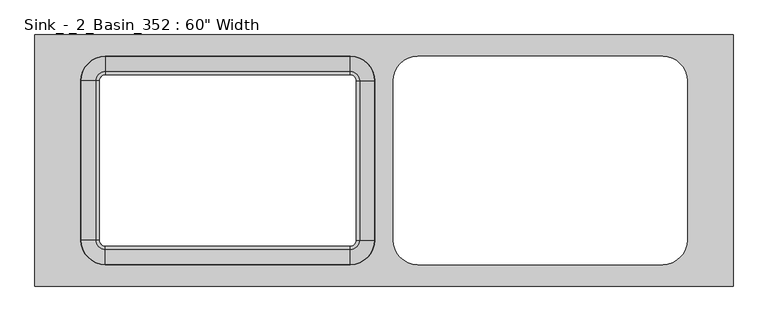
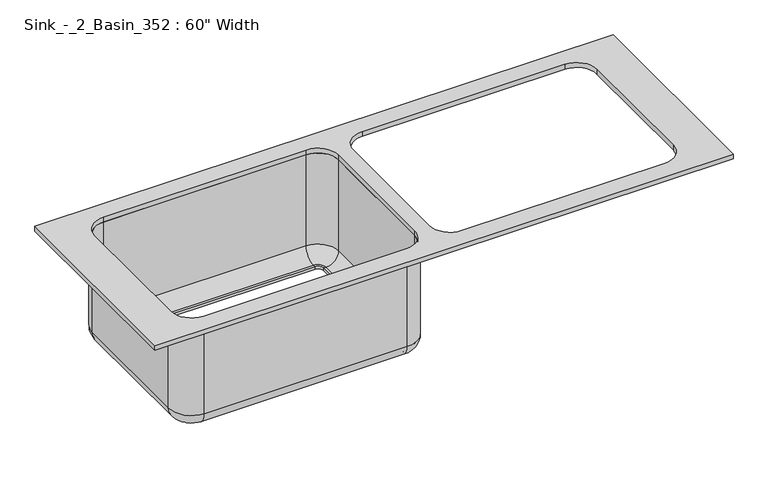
"""IFC4 building model written with IfcOpenShell, lengths in millimetres: flow terminal geometry."""

from ifc_helpers import new_model, si_unit, point, frame, frame_2d, origin, place, context, project, spatial, polyline, circle_curve, ellipse_curve, trimmed, segment, composite_curve, outline, extrude, source, transform, mapped, element, save
from ifc_brep_helpers import plane_surface, cylinder_surface, revolved_surface, advanced_brep


def flow_terminal_316eafe6(model_context):
    return source(origin(), model_context, "Body", "SolidModel", [
        advanced_brep(
        [(2.9892406, 91.2454011, 622.3), (-54.1607594, 148.3954011, 622.3), (-54.1607594, 148.3954011, 863.6), (2.9892406, 91.2454011, 863.6), (-35.1107594, 91.2454011, 584.2), (-54.1607594, 110.2954011, 584.2), (-41.4607594, 91.2454011, 584.2), (-54.1607594, 103.9454011, 584.2), (-41.4607594, 91.2454011, 590.55), (-54.1607594, 103.9454011, 590.55), (-35.1107594, 91.2454011, 590.55), (-54.1607594, 110.2954011, 590.55), (-3.3607594, 91.2454011, 622.3), (-54.1607594, 142.0454011, 622.3), (-3.3607594, 91.2454011, 863.6), (-54.1607594, 142.0454011, 863.6), (2.9892406, -238.9545989, 863.6), (2.9892406, -238.9545989, 622.3), (-35.1107594, -238.9545989, 584.2), (-41.4607594, -238.9545989, 584.2), (-41.4607594, -238.9545989, 590.55), (-35.1107594, -238.9545989, 590.55), (-3.3607594, -238.9545989, 622.3), (-3.3607594, -238.9545989, 863.6), (-54.1607594, -296.1045989, 622.3), (-54.1607594, -296.1045989, 863.6), (-54.1607594, -258.0045989, 584.2), (-54.1607594, -251.6545989, 584.2), (-54.1607594, -251.6545989, 590.55), (-54.1607594, -258.0045989, 590.55), (-54.1607594, -289.7545989, 622.3), (-54.1607594, -289.7545989, 863.6), (-562.1607594, -296.1045989, 863.6), (-562.1607594, -296.1045989, 622.3), (-562.1607594, -258.0045989, 584.2), (-562.1607594, -251.6545989, 584.2), (-562.1607594, -251.6545989, 590.55), (-562.1607594, -258.0045989, 590.55), (-562.1607594, -289.7545989, 622.3), (-562.1607594, -289.7545989, 863.6), (-619.3107594, -238.9545989, 622.3), (-619.3107594, -238.9545989, 863.6), (-581.2107594, -238.9545989, 584.2), (-574.8607594, -238.9545989, 584.2), (-574.8607594, -238.9545989, 590.55), (-581.2107594, -238.9545989, 590.55), (-612.9607594, -238.9545989, 622.3), (-612.9607594, -238.9545989, 863.6), (-619.3107594, 91.2454011, 863.6), (-619.3107594, 91.2454011, 622.3), (-581.2107594, 91.2454011, 584.2), (-574.8607594, 91.2454011, 584.2), (-574.8607594, 91.2454011, 590.55), (-581.2107594, 91.2454011, 590.55), (-612.9607594, 91.2454011, 622.3), (-612.9607594, 91.2454011, 863.6), (-562.1607594, 148.3954011, 622.3), (-562.1607594, 148.3954011, 863.6), (-562.1607594, 110.2954011, 584.2), (-562.1607594, 103.9454011, 584.2), (-562.1607594, 103.9454011, 590.55), (-562.1607594, 110.2954011, 590.55), (-562.1607594, 142.0454011, 622.3), (-562.1607594, 142.0454011, 863.6)],
        [
            (0, 1, circle_curve(frame((-54.1607594, 91.2454011, 622.3), z_axis=(0.0, 0.0, 1.0), x_axis=(0.0, 1.0, 0.0)), 57.15)),
            (1, 2),
            (2, 3, circle_curve(frame((-54.1607594, 91.2454011, 863.6), z_axis=(0.0, 0.0, -1.0), x_axis=(0.0, 1.0, 0.0)), 57.15)),
            (3, 0),
            (4, 5, circle_curve(frame((-54.1607594, 91.2454011, 584.2), z_axis=(0.0, 0.0, 1.0), x_axis=(0.0, 1.0, 0.0)), 19.05)),
            (5, 1, circle_curve(frame((-54.1607594, 110.2954011, 622.3), z_axis=(1.0, 0.0, 0.0), x_axis=(0.0, 1.0, 0.0)), 38.1)),
            (0, 4, circle_curve(frame((-35.1107594, 91.2454011, 622.3), z_axis=(0.0, 1.0, 0.0), x_axis=(1.0, 0.0, 0.0)), 38.1)),
            (6, 7, circle_curve(frame((-54.1607594, 91.2454011, 584.2), z_axis=(0.0, 0.0, 1.0), x_axis=(0.0, 1.0, 0.0)), 12.7)),
            (7, 5),
            (4, 6),
            (8, 9, circle_curve(frame((-54.1607594, 91.2454011, 590.55), z_axis=(0.0, 0.0, 1.0), x_axis=(0.0, 1.0, 0.0)), 12.7)),
            (9, 7),
            (6, 8),
            (10, 11, circle_curve(frame((-54.1607594, 91.2454011, 590.55), z_axis=(0.0, 0.0, 1.0), x_axis=(0.0, 1.0, 0.0)), 19.05)),
            (11, 9),
            (8, 10),
            (12, 13, circle_curve(frame((-54.1607594, 91.2454011, 622.3), z_axis=(0.0, 0.0, 1.0), x_axis=(0.0, 1.0, 0.0)), 50.8)),
            (13, 11, circle_curve(frame((-54.1607594, 110.2954011, 622.3), z_axis=(-1.0, 0.0, 0.0), x_axis=(0.0, 1.0, 0.0)), 31.75)),
            (10, 12, circle_curve(frame((-35.1107594, 91.2454011, 622.3), z_axis=(0.0, -1.0, 0.0), x_axis=(1.0, 0.0, 0.0)), 31.75)),
            (14, 15, circle_curve(frame((-54.1607594, 91.2454011, 863.6), z_axis=(0.0, 0.0, 1.0), x_axis=(0.0, 1.0, 0.0)), 50.8)),
            (15, 13),
            (12, 14),
            (2, 15),
            (14, 3),
            (3, 16),
            (16, 17),
            (17, 0),
            (17, 18, circle_curve(frame((-35.1107594, -238.9545989, 622.3), z_axis=(0.0, 1.0, 0.0), x_axis=(1.0, 0.0, 0.0)), 38.1)),
            (18, 4),
            (18, 19),
            (19, 6),
            (19, 20),
            (20, 8),
            (20, 21),
            (21, 10),
            (21, 22, circle_curve(frame((-35.1107594, -238.9545989, 622.3), z_axis=(0.0, -1.0, 0.0), x_axis=(1.0, 0.0, 0.0)), 31.75)),
            (22, 12),
            (22, 23),
            (23, 14),
            (23, 16),
            (24, 17, circle_curve(frame((-54.1607594, -238.9545989, 622.3), z_axis=(0.0, 0.0, 1.0), x_axis=(1.0, 0.0, 0.0)), 57.15)),
            (16, 25, circle_curve(frame((-54.1607594, -238.9545989, 863.6), z_axis=(0.0, 0.0, -1.0), x_axis=(1.0, 0.0, 0.0)), 57.15)),
            (25, 24),
            (26, 18, circle_curve(frame((-54.1607594, -238.9545989, 584.2), z_axis=(0.0, 0.0, 1.0), x_axis=(1.0, 0.0, 0.0)), 19.05)),
            (24, 26, circle_curve(frame((-54.1607594, -258.0045989, 622.3), z_axis=(1.0, 0.0, 0.0), x_axis=(0.0, -1.0, 0.0)), 38.1)),
            (27, 19, circle_curve(frame((-54.1607594, -238.9545989, 584.2), z_axis=(0.0, 0.0, 1.0), x_axis=(1.0, 0.0, 0.0)), 12.7)),
            (26, 27),
            (28, 20, circle_curve(frame((-54.1607594, -238.9545989, 590.55), z_axis=(0.0, 0.0, 1.0), x_axis=(1.0, 0.0, 0.0)), 12.7)),
            (27, 28),
            (29, 21, circle_curve(frame((-54.1607594, -238.9545989, 590.55), z_axis=(0.0, 0.0, 1.0), x_axis=(1.0, 0.0, 0.0)), 19.05)),
            (28, 29),
            (30, 22, circle_curve(frame((-54.1607594, -238.9545989, 622.3), z_axis=(0.0, 0.0, 1.0), x_axis=(1.0, 0.0, 0.0)), 50.8)),
            (29, 30, circle_curve(frame((-54.1607594, -258.0045989, 622.3), z_axis=(-1.0, 0.0, 0.0), x_axis=(0.0, -1.0, 0.0)), 31.75)),
            (31, 23, circle_curve(frame((-54.1607594, -238.9545989, 863.6), z_axis=(0.0, 0.0, 1.0), x_axis=(1.0, 0.0, 0.0)), 50.8)),
            (30, 31),
            (31, 25),
            (25, 32),
            (32, 33),
            (33, 24),
            (33, 34, circle_curve(frame((-562.1607594, -258.0045989, 622.3), z_axis=(1.0, 0.0, 0.0), x_axis=(0.0, -1.0, 0.0)), 38.1)),
            (34, 26),
            (34, 35),
            (35, 27),
            (35, 36),
            (36, 28),
            (36, 37),
            (37, 29),
            (37, 38, circle_curve(frame((-562.1607594, -258.0045989, 622.3), z_axis=(-1.0, 0.0, 0.0), x_axis=(0.0, -1.0, 0.0)), 31.75)),
            (38, 30),
            (38, 39),
            (39, 31),
            (39, 32),
            (40, 33, circle_curve(frame((-562.1607594, -238.9545989, 622.3), z_axis=(0.0, 0.0, 1.0), x_axis=(0.0, -1.0, 0.0)), 57.15)),
            (32, 41, circle_curve(frame((-562.1607594, -238.9545989, 863.6), z_axis=(0.0, 0.0, -1.0), x_axis=(0.0, -1.0, 0.0)), 57.15)),
            (41, 40),
            (42, 34, circle_curve(frame((-562.1607594, -238.9545989, 584.2), z_axis=(0.0, 0.0, 1.0), x_axis=(0.0, -1.0, 0.0)), 19.05)),
            (40, 42, circle_curve(frame((-581.2107594, -238.9545989, 622.3), z_axis=(0.0, -1.0, 0.0), x_axis=(-1.0, 0.0, 0.0)), 38.1)),
            (43, 35, circle_curve(frame((-562.1607594, -238.9545989, 584.2), z_axis=(0.0, 0.0, 1.0), x_axis=(0.0, -1.0, 0.0)), 12.7)),
            (42, 43),
            (44, 36, circle_curve(frame((-562.1607594, -238.9545989, 590.55), z_axis=(0.0, 0.0, 1.0), x_axis=(0.0, -1.0, 0.0)), 12.7)),
            (43, 44),
            (45, 37, circle_curve(frame((-562.1607594, -238.9545989, 590.55), z_axis=(0.0, 0.0, 1.0), x_axis=(0.0, -1.0, 0.0)), 19.05)),
            (44, 45),
            (46, 38, circle_curve(frame((-562.1607594, -238.9545989, 622.3), z_axis=(0.0, 0.0, 1.0), x_axis=(0.0, -1.0, 0.0)), 50.8)),
            (45, 46, circle_curve(frame((-581.2107594, -238.9545989, 622.3), z_axis=(0.0, 1.0, 0.0), x_axis=(-1.0, 0.0, 0.0)), 31.75)),
            (47, 39, circle_curve(frame((-562.1607594, -238.9545989, 863.6), z_axis=(0.0, 0.0, 1.0), x_axis=(0.0, -1.0, 0.0)), 50.8)),
            (46, 47),
            (47, 41),
            (41, 48),
            (48, 49),
            (49, 40),
            (49, 50, circle_curve(frame((-581.2107594, 91.2454011, 622.3), z_axis=(0.0, -1.0, 0.0), x_axis=(-1.0, 0.0, 0.0)), 38.1)),
            (50, 42),
            (50, 51),
            (51, 43),
            (51, 52),
            (52, 44),
            (52, 53),
            (53, 45),
            (53, 54, circle_curve(frame((-581.2107594, 91.2454011, 622.3), z_axis=(0.0, 1.0, 0.0), x_axis=(-1.0, 0.0, 0.0)), 31.75)),
            (54, 46),
            (54, 55),
            (55, 47),
            (55, 48),
            (56, 49, circle_curve(frame((-562.1607594, 91.2454011, 622.3), z_axis=(0.0, 0.0, 1.0), x_axis=(-1.0, 0.0, 0.0)), 57.15)),
            (48, 57, circle_curve(frame((-562.1607594, 91.2454011, 863.6), z_axis=(0.0, 0.0, -1.0), x_axis=(-1.0, 0.0, 0.0)), 57.15)),
            (57, 56),
            (58, 50, circle_curve(frame((-562.1607594, 91.2454011, 584.2), z_axis=(0.0, 0.0, 1.0), x_axis=(-1.0, 0.0, 0.0)), 19.05)),
            (56, 58, circle_curve(frame((-562.1607594, 110.2954011, 622.3), z_axis=(-1.0, 0.0, 0.0), x_axis=(0.0, 1.0, 0.0)), 38.1)),
            (59, 51, circle_curve(frame((-562.1607594, 91.2454011, 584.2), z_axis=(0.0, 0.0, 1.0), x_axis=(-1.0, 0.0, 0.0)), 12.7)),
            (58, 59),
            (60, 52, circle_curve(frame((-562.1607594, 91.2454011, 590.55), z_axis=(0.0, 0.0, 1.0), x_axis=(-1.0, 0.0, 0.0)), 12.7)),
            (59, 60),
            (61, 53, circle_curve(frame((-562.1607594, 91.2454011, 590.55), z_axis=(0.0, 0.0, 1.0), x_axis=(-1.0, 0.0, 0.0)), 19.05)),
            (60, 61),
            (62, 54, circle_curve(frame((-562.1607594, 91.2454011, 622.3), z_axis=(0.0, 0.0, 1.0), x_axis=(-1.0, 0.0, 0.0)), 50.8)),
            (61, 62, circle_curve(frame((-562.1607594, 110.2954011, 622.3), z_axis=(1.0, 0.0, 0.0), x_axis=(0.0, 1.0, 0.0)), 31.75)),
            (63, 55, circle_curve(frame((-562.1607594, 91.2454011, 863.6), z_axis=(0.0, 0.0, 1.0), x_axis=(-1.0, 0.0, 0.0)), 50.8)),
            (62, 63),
            (63, 57),
            (57, 2),
            (1, 56),
            (5, 58),
            (7, 59),
            (9, 60),
            (11, 61),
            (13, 62),
            (15, 63),
        ],
        [
            cylinder_surface(frame((-54.1607594, 91.2454011, 0.0), z_axis=(0.0, 0.0, -1.0), x_axis=(0.0, 1.0, 0.0)), 57.15),
            revolved_surface(trimmed(ellipse_curve(frame((-54.1607594, 110.2954011, 622.3), z_axis=(-1.0, 0.0, 0.0), x_axis=(0.0, 1.0, 0.0)), 38.1, 38.1), [point((-54.1607594, 148.3954011, 622.3))], [point((-54.1607594, 110.2954011, 584.2))], True, "CARTESIAN"), (-54.1607594, 91.2454011, 0.0), (0.0, 0.0, -1.0)),
            plane_surface(frame((-54.1607594, 91.2454011, 584.2), z_axis=(0.0, 0.0, -1.0), x_axis=(0.0, 1.0, 0.0))),
            revolved_surface(polyline([(-54.1607594, 103.9454011, 584.2), (-54.1607594, 103.9454011, 590.55)]), (-54.1607594, 91.2454011, 0.0), (0.0, 0.0, -1.0)),
            plane_surface(frame((-54.1607594, 91.2454011, 590.55), z_axis=(0.0, 0.0, 1.0), x_axis=(0.0, 1.0, 0.0))),
            revolved_surface(trimmed(ellipse_curve(frame((-54.1607594, 110.2954011, 622.3), z_axis=(1.0, 0.0, 0.0), x_axis=(0.0, 1.0, 0.0)), 31.75, 31.75), [point((-54.1607594, 110.2954011, 590.55))], [point((-54.1607594, 142.0454011, 622.3))], True, "CARTESIAN"), (-54.1607594, 91.2454011, 0.0), (0.0, 0.0, -1.0)),
            revolved_surface(polyline([(-54.1607594, 142.0454011, 622.3), (-54.1607594, 142.0454011, 863.6)]), (-54.1607594, 91.2454011, 0.0), (0.0, 0.0, -1.0)),
            plane_surface(frame((-54.1607594, 91.2454011, 863.6), z_axis=(0.0, 0.0, 1.0), x_axis=(0.0, 1.0, 0.0))),
            plane_surface(frame((2.9892406, 91.2454011, 863.6), z_axis=(1.0, 0.0, 0.0), x_axis=(0.0, -1.0, 0.0))),
            cylinder_surface(frame((-35.1107594, 91.2454011, 622.3), z_axis=(0.0, 1.0, 0.0), x_axis=(1.0, 0.0, 0.0)), 38.1),
            plane_surface(frame((-35.1107594, 91.2454011, 584.2), z_axis=(0.0, 0.0, -1.0), x_axis=(0.0, -1.0, 0.0))),
            plane_surface(frame((-41.4607594, 91.2454011, 584.2), z_axis=(-1.0, 0.0, 0.0), x_axis=(0.0, -1.0, 0.0))),
            plane_surface(frame((-41.4607594, 91.2454011, 590.55), z_axis=(0.0, 0.0, 1.0), x_axis=(0.0, -1.0, 0.0))),
            revolved_surface(polyline([(-3.360759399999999, -238.9545989, 622.3), (-3.360759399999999, 91.2454011, 622.3)]), (-35.1107594, 91.2454011, 622.3), (0.0, -1.0, 0.0)),
            plane_surface(frame((-3.3607594, 91.2454011, 622.3), z_axis=(-1.0, 0.0, 0.0), x_axis=(0.0, -1.0, 0.0))),
            plane_surface(frame((-3.3607594, 91.2454011, 863.6), z_axis=(0.0, 0.0, 1.0), x_axis=(0.0, -1.0, 0.0))),
            cylinder_surface(frame((-54.1607594, -238.9545989, 0.0), z_axis=(0.0, 0.0, -1.0), x_axis=(1.0, 0.0, 0.0)), 57.15),
            revolved_surface(trimmed(ellipse_curve(frame((-35.1107594, -238.9545989, 622.3), z_axis=(0.0, 1.0, 0.0), x_axis=(1.0, 0.0, 0.0)), 38.1, 38.1), [point((2.9892406, -238.9545989, 622.3))], [point((-35.1107594, -238.9545989, 584.2))], True, "CARTESIAN"), (-54.1607594, -238.9545989, 0.0), (0.0, 0.0, -1.0)),
            plane_surface(frame((-54.1607594, -238.9545989, 584.2), z_axis=(0.0, 0.0, -1.0), x_axis=(1.0, 0.0, 0.0))),
            revolved_surface(polyline([(-41.4607594, -238.9545989, 584.2), (-41.4607594, -238.9545989, 590.55)]), (-54.1607594, -238.9545989, 0.0), (0.0, 0.0, -1.0)),
            plane_surface(frame((-54.1607594, -238.9545989, 590.55), z_axis=(0.0, 0.0, 1.0), x_axis=(1.0, 0.0, 0.0))),
            revolved_surface(trimmed(ellipse_curve(frame((-35.1107594, -238.9545989, 622.3), z_axis=(0.0, -1.0, 0.0), x_axis=(1.0, 0.0, 0.0)), 31.75, 31.75), [point((-35.1107594, -238.9545989, 590.55))], [point((-3.3607594, -238.9545989, 622.3))], True, "CARTESIAN"), (-54.1607594, -238.9545989, 0.0), (0.0, 0.0, -1.0)),
            revolved_surface(polyline([(-3.3607594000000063, -238.9545989, 622.3), (-3.3607594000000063, -238.9545989, 863.6)]), (-54.1607594, -238.9545989, 0.0), (0.0, 0.0, -1.0)),
            plane_surface(frame((-54.1607594, -238.9545989, 863.6), z_axis=(0.0, 0.0, 1.0), x_axis=(1.0, 0.0, 0.0))),
            plane_surface(frame((-54.1607594, -296.1045989, 863.6), z_axis=(0.0, -1.0, 0.0), x_axis=(-1.0, 0.0, 0.0))),
            cylinder_surface(frame((-54.1607594, -258.0045989, 622.3), z_axis=(1.0, 0.0, 0.0), x_axis=(0.0, -1.0, 0.0)), 38.1),
            plane_surface(frame((-54.1607594, -258.0045989, 584.2), z_axis=(0.0, 0.0, -1.0), x_axis=(-1.0, 0.0, 0.0))),
            plane_surface(frame((-54.1607594, -251.6545989, 584.2), z_axis=(0.0, 1.0, 0.0), x_axis=(-1.0, 0.0, 0.0))),
            plane_surface(frame((-54.1607594, -251.6545989, 590.55), z_axis=(0.0, 0.0, 1.0), x_axis=(-1.0, 0.0, 0.0))),
            revolved_surface(polyline([(-562.1607594, -289.7545989, 622.3), (-54.1607594, -289.7545989, 622.3)]), (-54.1607594, -258.0045989, 622.3), (-1.0, 0.0, 0.0)),
            plane_surface(frame((-54.1607594, -289.7545989, 622.3), z_axis=(0.0, 1.0, 0.0), x_axis=(-1.0, 0.0, 0.0))),
            plane_surface(frame((-54.1607594, -289.7545989, 863.6), z_axis=(0.0, 0.0, 1.0), x_axis=(-1.0, 0.0, 0.0))),
            cylinder_surface(frame((-562.1607594, -238.9545989, 0.0), z_axis=(0.0, 0.0, -1.0), x_axis=(0.0, -1.0, 0.0)), 57.15),
            revolved_surface(trimmed(ellipse_curve(frame((-562.1607594, -258.0045989, 622.3), z_axis=(1.0, 0.0, 0.0), x_axis=(0.0, -1.0, 0.0)), 38.1, 38.1), [point((-562.1607594, -296.1045989, 622.3))], [point((-562.1607594, -258.0045989, 584.2))], True, "CARTESIAN"), (-562.1607594, -238.9545989, 0.0), (0.0, 0.0, -1.0)),
            plane_surface(frame((-562.1607594, -238.9545989, 584.2), z_axis=(0.0, 0.0, -1.0), x_axis=(0.0, -1.0, 0.0))),
            revolved_surface(polyline([(-562.1607594, -251.6545989, 584.2), (-562.1607594, -251.6545989, 590.55)]), (-562.1607594, -238.9545989, 0.0), (0.0, 0.0, -1.0)),
            plane_surface(frame((-562.1607594, -238.9545989, 590.55), z_axis=(0.0, 0.0, 1.0), x_axis=(0.0, -1.0, 0.0))),
            revolved_surface(trimmed(ellipse_curve(frame((-562.1607594, -258.0045989, 622.3), z_axis=(-1.0, 0.0, 0.0), x_axis=(0.0, -1.0, 0.0)), 31.75, 31.75), [point((-562.1607594, -258.0045989, 590.55))], [point((-562.1607594, -289.7545989, 622.3))], True, "CARTESIAN"), (-562.1607594, -238.9545989, 0.0), (0.0, 0.0, -1.0)),
            revolved_surface(polyline([(-562.1607594, -289.7545989, 622.3), (-562.1607594, -289.7545989, 863.6)]), (-562.1607594, -238.9545989, 0.0), (0.0, 0.0, -1.0)),
            plane_surface(frame((-562.1607594, -238.9545989, 863.6), z_axis=(0.0, 0.0, 1.0), x_axis=(0.0, -1.0, 0.0))),
            plane_surface(frame((-619.3107594, -238.9545989, 863.6), z_axis=(-1.0, 0.0, 0.0), x_axis=(0.0, 1.0, 0.0))),
            cylinder_surface(frame((-581.2107594, -238.9545989, 622.3), z_axis=(0.0, -1.0, 0.0), x_axis=(-1.0, 0.0, 0.0)), 38.1),
            plane_surface(frame((-581.2107594, -238.9545989, 584.2), z_axis=(0.0, 0.0, -1.0), x_axis=(0.0, 1.0, 0.0))),
            plane_surface(frame((-574.8607594, -238.9545989, 584.2), z_axis=(1.0, 0.0, 0.0), x_axis=(0.0, 1.0, 0.0))),
            plane_surface(frame((-574.8607594, -238.9545989, 590.55), z_axis=(0.0, 0.0, 1.0), x_axis=(0.0, 1.0, 0.0))),
            revolved_surface(polyline([(-612.9607594, 91.24540109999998, 622.3), (-612.9607594, -238.9545989, 622.3)]), (-581.2107594, -238.9545989, 622.3), (0.0, 1.0, 0.0)),
            plane_surface(frame((-612.9607594, -238.9545989, 622.3), z_axis=(1.0, 0.0, 0.0), x_axis=(0.0, 1.0, 0.0))),
            plane_surface(frame((-612.9607594, -238.9545989, 863.6), z_axis=(0.0, 0.0, 1.0), x_axis=(0.0, 1.0, 0.0))),
            cylinder_surface(frame((-562.1607594, 91.2454011, 0.0), z_axis=(0.0, 0.0, -1.0), x_axis=(-1.0, 0.0, 0.0)), 57.15),
            revolved_surface(trimmed(ellipse_curve(frame((-581.2107594, 91.2454011, 622.3), z_axis=(0.0, -1.0, 0.0), x_axis=(-1.0, 0.0, 0.0)), 38.1, 38.1), [point((-619.3107594, 91.2454011, 622.3))], [point((-581.2107594, 91.2454011, 584.2))], True, "CARTESIAN"), (-562.1607594, 91.2454011, 0.0), (0.0, 0.0, -1.0)),
            plane_surface(frame((-562.1607594, 91.2454011, 584.2), z_axis=(0.0, 0.0, -1.0), x_axis=(-1.0, 0.0, 0.0))),
            revolved_surface(polyline([(-574.8607594, 91.2454011, 584.2), (-574.8607594, 91.2454011, 590.55)]), (-562.1607594, 91.2454011, 0.0), (0.0, 0.0, -1.0)),
            plane_surface(frame((-562.1607594, 91.2454011, 590.55), z_axis=(0.0, 0.0, 1.0), x_axis=(-1.0, 0.0, 0.0))),
            revolved_surface(trimmed(ellipse_curve(frame((-581.2107594, 91.2454011, 622.3), z_axis=(0.0, 1.0, 0.0), x_axis=(-1.0, 0.0, 0.0)), 31.75, 31.75), [point((-581.2107594, 91.2454011, 590.55))], [point((-612.9607594, 91.2454011, 622.3))], True, "CARTESIAN"), (-562.1607594, 91.2454011, 0.0), (0.0, 0.0, -1.0)),
            revolved_surface(polyline([(-612.9607593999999, 91.2454011, 622.3), (-612.9607593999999, 91.2454011, 863.6)]), (-562.1607594, 91.2454011, 0.0), (0.0, 0.0, -1.0)),
            plane_surface(frame((-562.1607594, 91.2454011, 863.6), z_axis=(0.0, 0.0, 1.0), x_axis=(-1.0, 0.0, 0.0))),
            plane_surface(frame((-562.1607594, 148.3954011, 863.6), z_axis=(0.0, 1.0, 0.0), x_axis=(1.0, 0.0, 0.0))),
            cylinder_surface(frame((-562.1607594, 110.2954011, 622.3), z_axis=(-1.0, 0.0, 0.0), x_axis=(0.0, 1.0, 0.0)), 38.1),
            plane_surface(frame((-562.1607594, 110.2954011, 584.2), z_axis=(0.0, 0.0, -1.0), x_axis=(1.0, 0.0, 0.0))),
            plane_surface(frame((-562.1607594, 103.9454011, 584.2), z_axis=(0.0, -1.0, 0.0), x_axis=(1.0, 0.0, 0.0))),
            plane_surface(frame((-562.1607594, 103.9454011, 590.55), z_axis=(0.0, 0.0, 1.0), x_axis=(1.0, 0.0, 0.0))),
            revolved_surface(polyline([(-54.16075940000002, 142.0454011, 622.3), (-562.1607594, 142.0454011, 622.3)]), (-562.1607594, 110.2954011, 622.3), (1.0, 0.0, 0.0)),
            plane_surface(frame((-562.1607594, 142.0454011, 622.3), z_axis=(0.0, -1.0, 0.0), x_axis=(1.0, 0.0, 0.0))),
            plane_surface(frame((-562.1607594, 142.0454011, 863.6), z_axis=(0.0, 0.0, 1.0), x_axis=(1.0, 0.0, 0.0))),
        ],
        [
            (0, [[1, 2, 3, 4]]),
            (1, [[5, 6, -1, 7]]),
            (2, [[8, 9, -5, 10]]),
            (3, [[11, 12, -8, 13]]),
            (4, [[14, 15, -11, 16]]),
            (5, [[17, 18, -14, 19]]),
            (6, [[20, 21, -17, 22]]),
            (7, [[-3, 23, -20, 24]]),
            (8, [[-4, 25, 26, 27]]),
            (9, [[-7, -27, 28, 29]]),
            (10, [[-10, -29, 30, 31]]),
            (11, [[-13, -31, 32, 33]]),
            (12, [[-16, -33, 34, 35]]),
            (13, [[-19, -35, 36, 37]]),
            (14, [[-22, -37, 38, 39]]),
            (15, [[-24, -39, 40, -25]]),
            (16, [[41, -26, 42, 43]]),
            (17, [[44, -28, -41, 45]]),
            (18, [[46, -30, -44, 47]]),
            (19, [[48, -32, -46, 49]]),
            (20, [[50, -34, -48, 51]]),
            (21, [[52, -36, -50, 53]]),
            (22, [[54, -38, -52, 55]]),
            (23, [[-42, -40, -54, 56]]),
            (24, [[-43, 57, 58, 59]]),
            (25, [[-45, -59, 60, 61]]),
            (26, [[-47, -61, 62, 63]]),
            (27, [[-49, -63, 64, 65]]),
            (28, [[-51, -65, 66, 67]]),
            (29, [[-53, -67, 68, 69]]),
            (30, [[-55, -69, 70, 71]]),
            (31, [[-56, -71, 72, -57]]),
            (32, [[73, -58, 74, 75]]),
            (33, [[76, -60, -73, 77]]),
            (34, [[78, -62, -76, 79]]),
            (35, [[80, -64, -78, 81]]),
            (36, [[82, -66, -80, 83]]),
            (37, [[84, -68, -82, 85]]),
            (38, [[86, -70, -84, 87]]),
            (39, [[-74, -72, -86, 88]]),
            (40, [[-75, 89, 90, 91]]),
            (41, [[-77, -91, 92, 93]]),
            (42, [[-79, -93, 94, 95]]),
            (43, [[-81, -95, 96, 97]]),
            (44, [[-83, -97, 98, 99]]),
            (45, [[-85, -99, 100, 101]]),
            (46, [[-87, -101, 102, 103]]),
            (47, [[-88, -103, 104, -89]]),
            (48, [[105, -90, 106, 107]]),
            (49, [[108, -92, -105, 109]]),
            (50, [[110, -94, -108, 111]]),
            (51, [[112, -96, -110, 113]]),
            (52, [[114, -98, -112, 115]]),
            (53, [[116, -100, -114, 117]]),
            (54, [[118, -102, -116, 119]]),
            (55, [[-106, -104, -118, 120]]),
            (56, [[-107, 121, -2, 122]]),
            (57, [[-109, -122, -6, 123]]),
            (58, [[-111, -123, -9, 124]]),
            (59, [[-113, -124, -12, 125]]),
            (60, [[-115, -125, -15, 126]]),
            (61, [[-117, -126, -18, 127]]),
            (62, [[-119, -127, -21, 128]]),
            (63, [[-120, -128, -23, -121]]),
        ],
    ),
        extrude(outline(polyline([(739.5892406, 186.4954011), (739.5892406, -334.2045989), (-708.2107594, -334.2045989), (-708.2107594, 186.4954011), (739.5892406, 186.4954011)]), holes=[composite_curve([segment(polyline([(-54.1607594, 142.0454011), (-562.1607594, 142.0454011)]), True, "CONTINUOUS"), segment(trimmed(circle_curve(frame_2d((-562.1607594, 91.2454011)), 50.8), [point((-562.1607594, 142.0454011))], [point((-612.9607594, 91.2454011))], True, "CARTESIAN"), True, "CONTINUOUS"), segment(polyline([(-612.9607594, 91.2454011), (-612.9607594, -238.9545989)]), True, "CONTINUOUS"), segment(trimmed(circle_curve(frame_2d((-562.1607594, -238.9545989)), 50.8), [point((-612.9607594, -238.9545989))], [point((-562.1607594, -289.7545989))], True, "CARTESIAN"), True, "CONTINUOUS"), segment(polyline([(-562.1607594, -289.7545989), (-54.1607594, -289.7545989)]), True, "CONTINUOUS"), segment(trimmed(circle_curve(frame_2d((-54.1607594, -238.9545989)), 50.8), [point((-54.1607594, -289.7545989))], [point((-3.3607594, -238.9545989))], True, "CARTESIAN"), True, "CONTINUOUS"), segment(polyline([(-3.3607594, -238.9545989), (-3.3607594, 91.2454011)]), True, "CONTINUOUS"), segment(trimmed(circle_curve(frame_2d((-54.1607594, 91.2454011)), 50.8), [point((-3.3607594, 91.2454011))], [point((-54.1607594, 142.0454011))], True, "CARTESIAN"), True, "CONTINUOUS")], self_intersect=False), composite_curve([segment(polyline([(85.5392406, -289.7545989), (593.5392406, -289.7545989)]), True, "CONTINUOUS"), segment(trimmed(circle_curve(frame_2d((593.5392406, -238.9545989)), 50.8), [point((593.5392406, -289.7545989))], [point((644.3392406, -238.9545989))], True, "CARTESIAN"), True, "CONTINUOUS"), segment(polyline([(644.3392406, -238.9545989), (644.3392406, 91.2454011)]), True, "CONTINUOUS"), segment(trimmed(circle_curve(frame_2d((593.5392406, 91.2454011)), 50.8), [point((644.3392406, 91.2454011))], [point((593.5392406, 142.0454011))], True, "CARTESIAN"), True, "CONTINUOUS"), segment(polyline([(593.5392406, 142.0454011), (85.5392406, 142.0454011)]), True, "CONTINUOUS"), segment(trimmed(circle_curve(frame_2d((85.5392406, 91.2454011)), 50.8), [point((85.5392406, 142.0454011))], [point((34.7392406, 91.2454011))], True, "CARTESIAN"), True, "CONTINUOUS"), segment(polyline([(34.7392406, 91.2454011), (34.7392406, -238.9545989)]), True, "CONTINUOUS"), segment(trimmed(circle_curve(frame_2d((85.5392406, -238.9545989)), 50.8), [point((34.7392406, -238.9545989))], [point((85.5392406, -289.7545989))], True, "CARTESIAN"), True, "CONTINUOUS")], self_intersect=False)]), frame((0.0, 0.0, 863.6), z_axis=(0.0, 0.0, 1.0), x_axis=(1.0, 0.0, 0.0)), (0.0, 0.0, 1.0), 12.7),
    ])


if __name__ == "__main__":
    model = new_model("IFC4")
    model_context = context("Model", 3, world=origin())
    ifc_project = project(units=[si_unit("LENGTHUNIT", "METRE", prefix="MILLI")], contexts=[model_context])
    site = spatial("IfcSite", under=ifc_project)
    building = spatial("IfcBuilding", under=site)
    placement = place(None, origin())
    flow_terminal_shape = flow_terminal_316eafe6(model_context)
    element("IfcFlowTerminal", 1, ObjectType="Sink_-_2_Basin_352 : 60\" Width", at=placement, inside=building, context=model_context, shape_type="MappedRepresentation", body=[
        mapped(flow_terminal_shape, transform((0.0, 0.0, 0.0), x_axis=(1.0, 0.0, 0.0), y_axis=(0.0, 1.0, 0.0), z_axis=(0.0, 0.0, 1.0))),
    ])
    save(model, "model.ifc")
